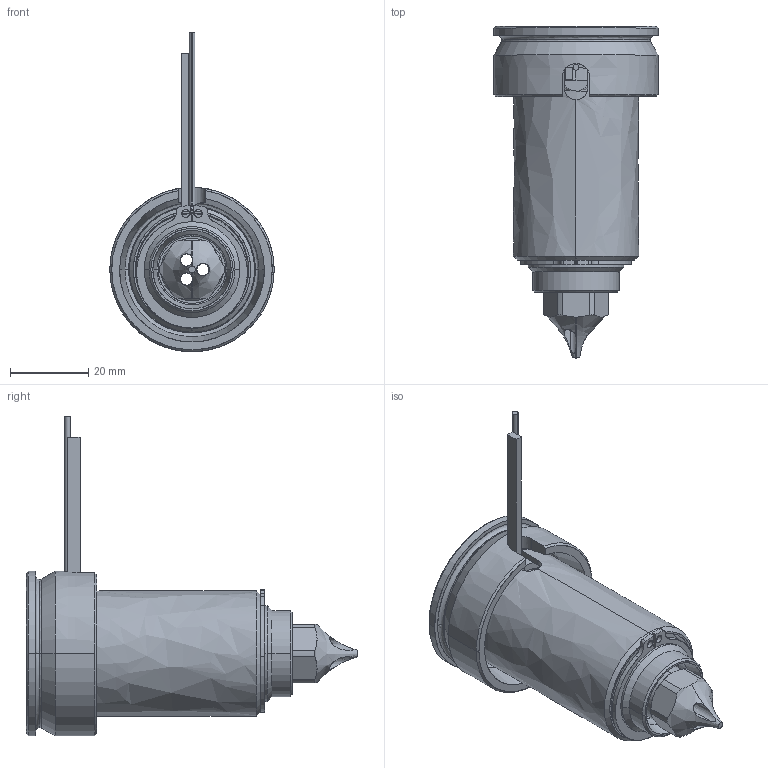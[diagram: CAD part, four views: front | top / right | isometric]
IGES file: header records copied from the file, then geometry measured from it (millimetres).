
Start section: SolidWorks IGES file using analytic representation for surfaces
Global section: file name: C:\Users\luca.EMPAD\Desktop\TEM\UGDL3612-S-A-1 [Øf=1.7 ØC=10].IGS; native system: SolidWorks 2012; preprocessor: SolidWorks 2012; author: luca; date: 120330.160605; units: millimetre
Bounding box: 42 x 84.8 x 81.65 mm (x, y, z)
Surface area: 27221.9 mm2 (no closed solid volume)
Topology: 0 solids, 0 shells, 131 faces, 2342 edges, 2342 vertices
Faces by surface type: revolution 81, bspline 50
